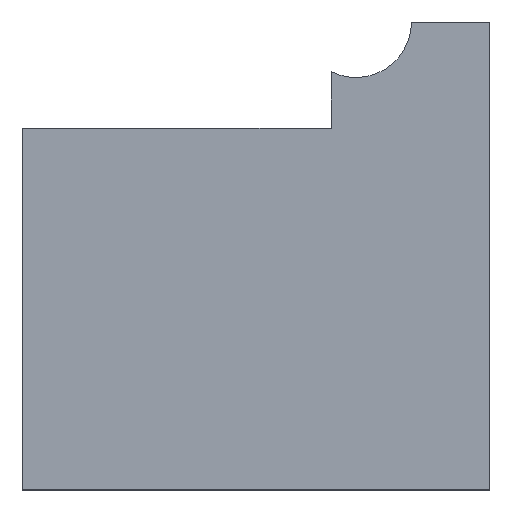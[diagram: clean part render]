
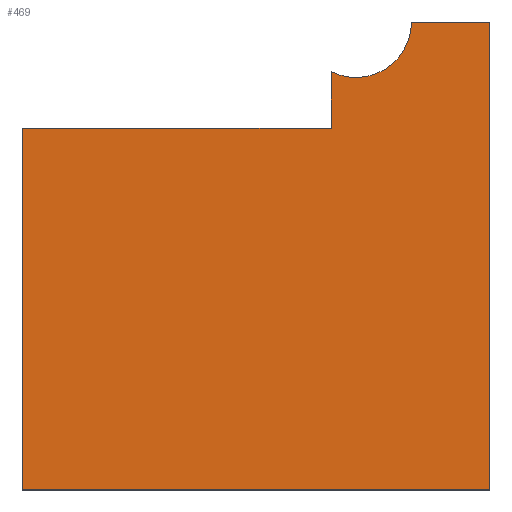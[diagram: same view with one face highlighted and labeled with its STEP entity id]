
A CAD part, top view. The second image highlights one B-rep face of the part: STEP entity #469.
In plain terms, the highlighted planar face has unit normal (0, 0, 1).
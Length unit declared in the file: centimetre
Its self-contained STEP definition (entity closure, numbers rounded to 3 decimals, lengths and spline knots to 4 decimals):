
#1 = CARTESIAN_POINT ( 'NONE',  ( 1000., 0., 1000. ) ) ;
#6 = EDGE_CURVE ( 'NONE', #414, #677, #524, .T. ) ;
#19 = VERTEX_POINT ( 'NONE', #466 ) ;
#62 = CARTESIAN_POINT ( 'NONE',  ( 660.916, 893.7232, 1000. ) ) ;
#63 = ORIENTED_EDGE ( 'NONE', *, *, #85, .T. ) ;
#65 = VECTOR ( 'NONE', #515, 100. ) ;
#67 = DIRECTION ( 'NONE',  ( -1., 0., 0. ) ) ;
#85 = EDGE_CURVE ( 'NONE', #19, #326, #561, .T. ) ;
#106 = CARTESIAN_POINT ( 'NONE',  ( 660.916, 772.5584, 1000. ) ) ;
#114 = CARTESIAN_POINT ( 'NONE',  ( 660.916, 772.5584, 1000. ) ) ;
#132 = CARTESIAN_POINT ( 'NONE',  ( 0., 1000., 1000. ) ) ;
#136 = EDGE_CURVE ( 'NONE', #326, #755, #743, .T. ) ;
#150 = DIRECTION ( 'NONE',  ( -1., 0., 0. ) ) ;
#156 = LINE ( 'NONE', #298, #338 ) ;
#192 = EDGE_CURVE ( 'NONE', #414, #368, #156, .T. ) ;
#199 = DIRECTION ( 'NONE',  ( 0., 0., 1. ) ) ;
#210 = VERTEX_POINT ( 'NONE', #287 ) ;
#211 = DIRECTION ( 'NONE',  ( 1., 0., 0. ) ) ;
#268 = VECTOR ( 'NONE', #652, 100. ) ;
#285 = EDGE_LOOP ( 'NONE', ( #383, #496, #63, #365, #348, #395, #742 ) ) ;
#287 = CARTESIAN_POINT ( 'NONE',  ( 832.5682, 1000., 1000. ) ) ;
#298 = CARTESIAN_POINT ( 'NONE',  ( 660.916, 1000., 1000. ) ) ;
#326 = VERTEX_POINT ( 'NONE', #1 ) ;
#338 = VECTOR ( 'NONE', #759, 100. ) ;
#346 = CARTESIAN_POINT ( 'NONE',  ( 713.842, 1000., 1000. ) ) ;
#348 = ORIENTED_EDGE ( 'NONE', *, *, #559, .T. ) ;
#353 = DIRECTION ( 'NONE',  ( -1., 0., 0. ) ) ;
#360 = PLANE ( 'NONE',  #528 ) ;
#365 = ORIENTED_EDGE ( 'NONE', *, *, #136, .T. ) ;
#368 = VERTEX_POINT ( 'NONE', #62 ) ;
#379 = DIRECTION ( 'NONE',  ( 1., 0., 0. ) ) ;
#383 = ORIENTED_EDGE ( 'NONE', *, *, #6, .T. ) ;
#395 = ORIENTED_EDGE ( 'NONE', *, *, #628, .T. ) ;
#414 = VERTEX_POINT ( 'NONE', #114 ) ;
#421 = FACE_OUTER_BOUND ( 'NONE', #285, .T. ) ;
#466 = CARTESIAN_POINT ( 'NONE',  ( 0., 0., 1000. ) ) ;
#469 = ADVANCED_FACE ( 'NONE', ( #421 ), #360, .T. ) ;
#471 = LINE ( 'NONE', #708, #268 ) ;
#488 = VECTOR ( 'NONE', #353, 100. ) ;
#496 = ORIENTED_EDGE ( 'NONE', *, *, #681, .T. ) ;
#510 = CARTESIAN_POINT ( 'NONE',  ( 1000., 1000., 1000. ) ) ;
#515 = DIRECTION ( 'NONE',  ( 0., 1., 0. ) ) ;
#523 = CARTESIAN_POINT ( 'NONE',  ( 1000., 1000., 1000. ) ) ;
#524 = LINE ( 'NONE', #106, #488 ) ;
#528 = AXIS2_PLACEMENT_3D ( 'NONE', #553, #199, #379 ) ;
#529 = VECTOR ( 'NONE', #67, 100. ) ;
#553 = CARTESIAN_POINT ( 'NONE',  ( 0., 0., 1000. ) ) ;
#559 = EDGE_CURVE ( 'NONE', #755, #210, #636, .T. ) ;
#561 = LINE ( 'NONE', #689, #760 ) ;
#581 = DIRECTION ( 'NONE',  ( 0., 0., -1. ) ) ;
#617 = AXIS2_PLACEMENT_3D ( 'NONE', #346, #581, #150 ) ;
#628 = EDGE_CURVE ( 'NONE', #210, #368, #727, .T. ) ;
#636 = LINE ( 'NONE', #132, #529 ) ;
#652 = DIRECTION ( 'NONE',  ( 0., -1., 0. ) ) ;
#677 = VERTEX_POINT ( 'NONE', #757 ) ;
#681 = EDGE_CURVE ( 'NONE', #677, #19, #471, .T. ) ;
#689 = CARTESIAN_POINT ( 'NONE',  ( 0., 0., 1000. ) ) ;
#708 = CARTESIAN_POINT ( 'NONE',  ( 0., 1000., 1000. ) ) ;
#727 = CIRCLE ( 'NONE', #617, 118.7262 ) ;
#742 = ORIENTED_EDGE ( 'NONE', *, *, #192, .F. ) ;
#743 = LINE ( 'NONE', #510, #65 ) ;
#755 = VERTEX_POINT ( 'NONE', #523 ) ;
#757 = CARTESIAN_POINT ( 'NONE',  ( 0., 772.5584, 1000. ) ) ;
#759 = DIRECTION ( 'NONE',  ( 0., 1., 0. ) ) ;
#760 = VECTOR ( 'NONE', #211, 100. ) ;
